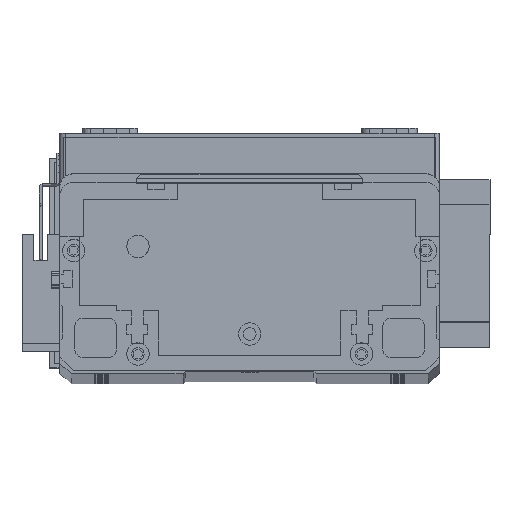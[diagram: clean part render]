
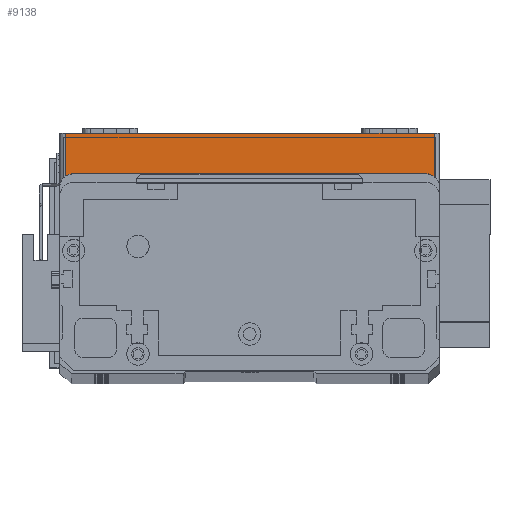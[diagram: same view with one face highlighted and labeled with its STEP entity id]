
A CAD part, top view. The second image highlights one B-rep face of the part: STEP entity #9138.
In plain terms, the highlighted planar face has unit normal (0, 0, 1) as drawn and (0, -1, 0) by its records, which use the part's own axes.
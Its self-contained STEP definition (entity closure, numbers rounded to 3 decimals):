
#152 = LINE ( 'NONE', #5044, #5639 ) ;
#1605 = ORIENTED_EDGE ( 'NONE', *, *, #29669, .T. ) ;
#2692 = ORIENTED_EDGE ( 'NONE', *, *, #21641, .T. ) ;
#2783 = DIRECTION ( 'NONE',  ( 1., 0., 0. ) ) ;
#4076 = CARTESIAN_POINT ( 'NONE',  ( 2., 0., 19.5 ) ) ;
#4244 = DIRECTION ( 'NONE',  ( 0., 0., 1. ) ) ;
#5044 = CARTESIAN_POINT ( 'NONE',  ( 0., 0., 0. ) ) ;
#5369 = LINE ( 'NONE', #24117, #11588 ) ;
#5512 = DIRECTION ( 'NONE',  ( 0., 0., 1. ) ) ;
#5639 = VECTOR ( 'NONE', #2783, 1000. ) ;
#6717 = EDGE_CURVE ( 'NONE', #27640, #25048, #26340, .T. ) ;
#8404 = VECTOR ( 'NONE', #5512, 1000. ) ;
#9109 = ORIENTED_EDGE ( 'NONE', *, *, #11775, .T. ) ;
#9138 = ADVANCED_FACE ( 'NONE', ( #12855 ), #13530, .F. ) ;
#10225 = DIRECTION ( 'NONE',  ( 0., 0., -1. ) ) ;
#11588 = VECTOR ( 'NONE', #10225, 1000. ) ;
#11775 = EDGE_CURVE ( 'NONE', #27640, #26393, #5369, .T. ) ;
#12855 = FACE_OUTER_BOUND ( 'NONE', #21821, .T. ) ;
#13530 = PLANE ( 'NONE',  #26350 ) ;
#14582 = LINE ( 'NONE', #23998, #8404 ) ;
#14625 = CARTESIAN_POINT ( 'NONE',  ( 134., 0., 19.5 ) ) ;
#17730 = CARTESIAN_POINT ( 'NONE',  ( 2., 0., 0. ) ) ;
#18225 = DIRECTION ( 'NONE',  ( 0., 1., 0. ) ) ;
#18344 = VERTEX_POINT ( 'NONE', #25193 ) ;
#18982 = CARTESIAN_POINT ( 'NONE',  ( 0., 0., 19.5 ) ) ;
#20885 = VECTOR ( 'NONE', #28107, 1000. ) ;
#21641 = EDGE_CURVE ( 'NONE', #26393, #18344, #152, .T. ) ;
#21821 = EDGE_LOOP ( 'NONE', ( #25278, #9109, #2692, #1605 ) ) ;
#23998 = CARTESIAN_POINT ( 'NONE',  ( 134., 0., 19.5 ) ) ;
#24117 = CARTESIAN_POINT ( 'NONE',  ( 2., 0., 19.5 ) ) ;
#25048 = VERTEX_POINT ( 'NONE', #14625 ) ;
#25193 = CARTESIAN_POINT ( 'NONE',  ( 134., 0., 0. ) ) ;
#25278 = ORIENTED_EDGE ( 'NONE', *, *, #6717, .F. ) ;
#26340 = LINE ( 'NONE', #18982, #20885 ) ;
#26350 = AXIS2_PLACEMENT_3D ( 'NONE', #29786, #18225, #4244 ) ;
#26393 = VERTEX_POINT ( 'NONE', #17730 ) ;
#27640 = VERTEX_POINT ( 'NONE', #4076 ) ;
#28107 = DIRECTION ( 'NONE',  ( 1., 0., 0. ) ) ;
#29669 = EDGE_CURVE ( 'NONE', #18344, #25048, #14582, .T. ) ;
#29786 = CARTESIAN_POINT ( 'NONE',  ( 0., 0., 19.5 ) ) ;
